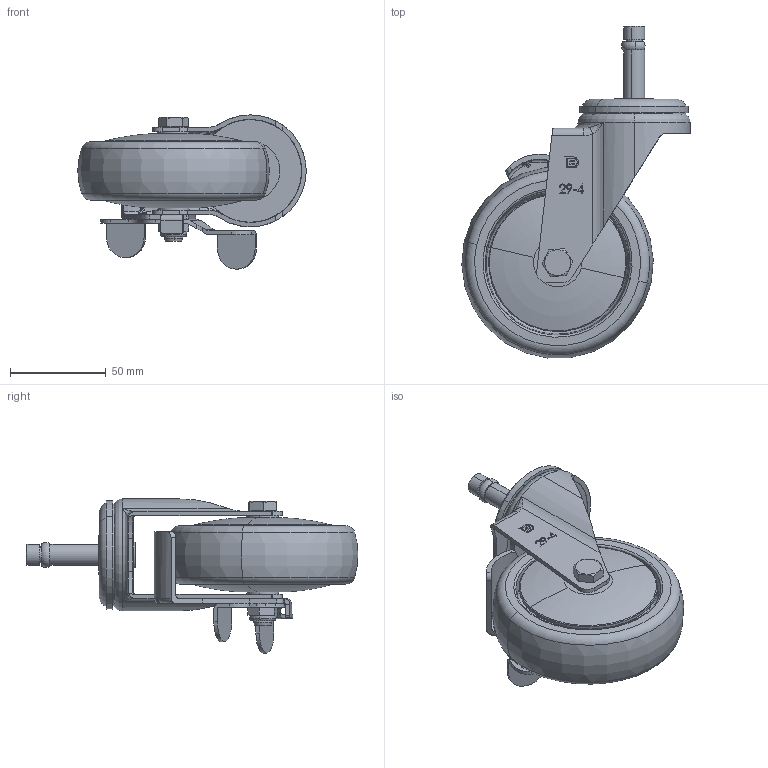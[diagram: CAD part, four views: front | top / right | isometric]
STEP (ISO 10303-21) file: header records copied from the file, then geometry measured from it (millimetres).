
FILE_DESCRIPTION (( 'STEP AP203' ), '1' );
FILE_NAME ('4112904004057-展示用.STEP', '2024-08-06T00:22:55', ( '' ), ( '' ), 'SwSTEP 2.0', 'SolidWorks 2019', '' );
FILE_SCHEMA (( 'CONFIG_CONTROL_DESIGN' ));
Length unit declared in the file: millimetre
Products named in the file (10): 4112904004057-展示用; 245020900003 尼龍螺帽  3 8''''(對邊14x7L); 242020962001 30系列側煞用車心(六角) 3 8''''-粗牙(14L)x9.3x59.5L_163120; 4201113804 30系列輪架用插心 φ11x38L; 412350400045 經典PPR輪組 4''''(100x31-珠光深灰)弧+中管+蓋; 12130170500001-30-33系列側煞踏板-電鍍; 12130150500012 30系列上珠碗-電鍍(48hr無紅鏽)-展示用; 12130180400002 30系列側煞L片-電鍍; 212914040002 29系列活動腳-沖壓 4''''活動及側煞共用-展示用; 246071100001 插心用銅扣環 ψ11插心用ψ10.7xψ13.1x1.2
Assembly tree (9 placements, depth 2):
  4112904004057-展示用
    212914040002 29系列活動腳-沖壓 4''''活動及側煞共用-展示用
    12130150500012 30系列上珠碗-電鍍(48hr無紅鏽)-展示用
    12130180400002 30系列側煞L片-電鍍
    12130170500001-30-33系列側煞踏板-電鍍
    242020962001 30系列側煞用車心(六角) 3 8''''-粗牙(14L)x9.3x59.5L_163120
    245020900003 尼龍螺帽  3 8''''(對邊14x7L)
    412350400045 經典PPR輪組 4''''(100x31-珠光深灰)弧+中管+蓋
    4201113804 30系列輪架用插心 φ11x38L
    246071100001 插心用銅扣環 ψ11插心用ψ10.7xψ13.1x1.2
Bounding box: 119.24 x 173.34 x 80.55 mm (x, y, z)
Volume: 210585.8 mm3; surface area: 101191.8 mm2
Topology: 12 solids, 12 shells, 529 faces, 1371 edges, 909 vertices
Faces by surface type: plane 208, cylinder 181, torus 66, bspline 40, cone 34
Entity records: 20246 total; most frequent: CARTESIAN_POINT 6397, ORIENTED_EDGE 2726, DIRECTION 2606, EDGE_CURVE 1363, AXIS2_PLACEMENT_3D 988, VERTEX_POINT 909, VECTOR 630, LINE 630
